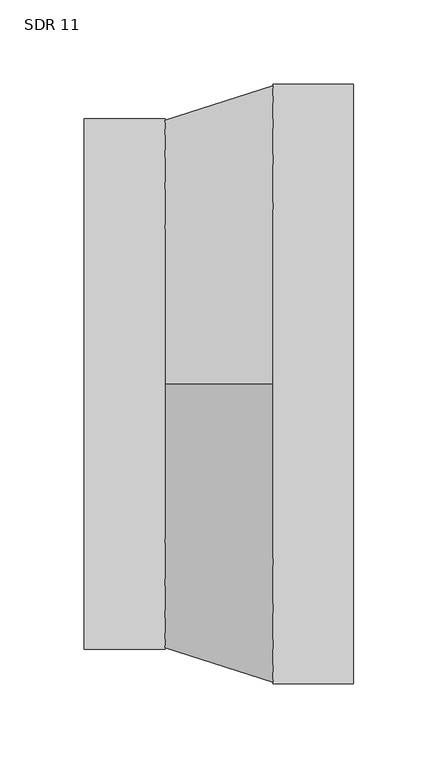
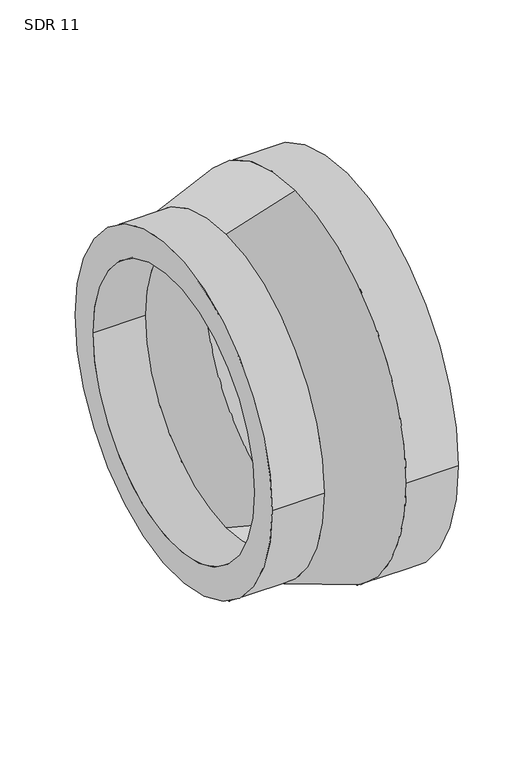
"""IFC4 building model written with IfcOpenShell, lengths in millimetres: pipe fitting geometry, Aquatherm - Reducing Coupling Combined - METRIC : SDR 11."""

from ifc_helpers import new_model, si_unit, frame, origin, place, context, project, spatial, polyline, circle_curve, source, transform, mapped, element, save
from ifc_brep_helpers import plane_surface, cylinder_surface, revolved_surface, advanced_brep


def sdr_11_f05b06da(model_context):
    return source(origin(), model_context, "Body", "AdvancedBrep", [
        advanced_brep(
        [(-80.01, -157.48, 0.0), (-80.01, 157.48, 0.0), (-80.01, -128.8472727, 0.0), (-80.01, 128.8472727, 0.0), (-32.004, 128.8472727, 0.0), (-32.004, 0.0, 128.8472727), (-32.004, -128.8472727, 0.0), (-32.004, 0.0, -128.8472727), (-32.004, 157.48, 0.0), (-32.004, 0.0, -157.48), (-32.004, -157.48, 0.0), (-32.004, 0.0, 157.48), (80.01, -177.8, 0.0), (80.01, 177.8, 0.0), (80.01, -145.4727273, 0.0), (80.01, 145.4727273, 0.0), (32.004, -177.8, 0.0), (32.004, 0.0, -177.8), (32.004, 177.8, 0.0), (32.004, 0.0, 177.8), (32.004, -145.4727273, 0.0), (32.004, 0.0, 145.4727273), (32.004, 145.4727273, 0.0), (32.004, 0.0, -145.4727273)],
        [
            (0, 1, circle_curve(frame((-80.01, 0.0, 0.0), z_axis=(-1.0, 0.0, 0.0), x_axis=(0.0, 1.0, 0.0)), 157.48)),
            (1, 0, circle_curve(frame((-80.01, 0.0, 0.0), z_axis=(-1.0, 0.0, 0.0), x_axis=(0.0, 1.0, 0.0)), 157.48)),
            (2, 3, circle_curve(frame((-80.01, 0.0, 0.0), z_axis=(1.0, 0.0, 0.0), x_axis=(0.0, 1.0, 0.0)), 128.8472727)),
            (3, 2, circle_curve(frame((-80.01, 0.0, 0.0), z_axis=(1.0, 0.0, 0.0), x_axis=(0.0, 1.0, 0.0)), 128.8472727)),
            (3, 4),
            (4, 5, circle_curve(frame((-32.004, 0.0, 0.0), z_axis=(1.0, 0.0, 0.0), x_axis=(0.0, 1.0, 0.0)), 128.8472727)),
            (5, 6, circle_curve(frame((-32.004, 0.0, 0.0), z_axis=(1.0, 0.0, 0.0), x_axis=(0.0, 1.0, 0.0)), 128.8472727)),
            (6, 2),
            (6, 7, circle_curve(frame((-32.004, 0.0, 0.0), z_axis=(1.0, 0.0, 0.0), x_axis=(0.0, 1.0, 0.0)), 128.8472727)),
            (7, 4, circle_curve(frame((-32.004, 0.0, 0.0), z_axis=(1.0, 0.0, 0.0), x_axis=(0.0, 1.0, 0.0)), 128.8472727)),
            (1, 8),
            (8, 9, circle_curve(frame((-32.004, 0.0, 0.0), z_axis=(-1.0, 0.0, 0.0), x_axis=(0.0, 1.0, 0.0)), 157.48)),
            (9, 10, circle_curve(frame((-32.004, 0.0, 0.0), z_axis=(-1.0, 0.0, 0.0), x_axis=(0.0, 1.0, 0.0)), 157.48)),
            (10, 0),
            (10, 11, circle_curve(frame((-32.004, 0.0, 0.0), z_axis=(-1.0, 0.0, 0.0), x_axis=(0.0, 1.0, 0.0)), 157.48)),
            (11, 8, circle_curve(frame((-32.004, 0.0, 0.0), z_axis=(-1.0, 0.0, 0.0), x_axis=(0.0, 1.0, 0.0)), 157.48)),
            (12, 13, circle_curve(frame((80.01, 0.0, 0.0), z_axis=(1.0, 0.0, 0.0), x_axis=(0.0, 1.0, 0.0)), 177.8)),
            (13, 12, circle_curve(frame((80.01, 0.0, 0.0), z_axis=(1.0, 0.0, 0.0), x_axis=(0.0, 1.0, 0.0)), 177.8)),
            (14, 15, circle_curve(frame((80.01, 0.0, 0.0), z_axis=(-1.0, 0.0, 0.0), x_axis=(0.0, 1.0, 0.0)), 145.4727273)),
            (15, 14, circle_curve(frame((80.01, 0.0, 0.0), z_axis=(-1.0, 0.0, 0.0), x_axis=(0.0, 1.0, 0.0)), 145.4727273)),
            (12, 16),
            (16, 17, circle_curve(frame((32.004, 0.0, 0.0), z_axis=(1.0, 0.0, 0.0), x_axis=(0.0, 1.0, 0.0)), 177.8)),
            (17, 18, circle_curve(frame((32.004, 0.0, 0.0), z_axis=(1.0, 0.0, 0.0), x_axis=(0.0, 1.0, 0.0)), 177.8)),
            (18, 13),
            (18, 19, circle_curve(frame((32.004, 0.0, 0.0), z_axis=(1.0, 0.0, 0.0), x_axis=(0.0, 1.0, 0.0)), 177.8)),
            (19, 16, circle_curve(frame((32.004, 0.0, 0.0), z_axis=(1.0, 0.0, 0.0), x_axis=(0.0, 1.0, 0.0)), 177.8)),
            (14, 20),
            (20, 21, circle_curve(frame((32.004, 0.0, 0.0), z_axis=(-1.0, 0.0, 0.0), x_axis=(0.0, 1.0, 0.0)), 145.4727273)),
            (21, 22, circle_curve(frame((32.004, 0.0, 0.0), z_axis=(-1.0, 0.0, 0.0), x_axis=(0.0, 1.0, 0.0)), 145.4727273)),
            (22, 15),
            (22, 23, circle_curve(frame((32.004, 0.0, 0.0), z_axis=(-1.0, 0.0, 0.0), x_axis=(0.0, 1.0, 0.0)), 145.4727273)),
            (23, 20, circle_curve(frame((32.004, 0.0, 0.0), z_axis=(-1.0, 0.0, 0.0), x_axis=(0.0, 1.0, 0.0)), 145.4727273)),
            (11, 19),
            (17, 9),
            (21, 5),
            (7, 23),
        ],
        [
            plane_surface(frame((-80.01, 128.8472727, 0.0), z_axis=(-1.0, 0.0, 0.0), x_axis=(0.0, 0.0, 1.0))),
            revolved_surface(polyline([(-80.01, 128.8472727, 0.0), (-32.004, 128.8472727, 0.0)]), (-80.01, 0.0, 0.0), (-1.0, 0.0, 0.0)),
            cylinder_surface(frame((0.0, 0.0, 0.0), z_axis=(1.0, 0.0, 0.0), x_axis=(0.0, 1.0, 0.0)), 157.48),
            plane_surface(frame((80.01, 177.8, 0.0), z_axis=(1.0, 0.0, 0.0), x_axis=(0.0, 0.0, 1.0))),
            cylinder_surface(frame((32.004, 0.0, 0.0), z_axis=(1.0, 0.0, 0.0), x_axis=(0.0, 1.0, 0.0)), 177.8),
            revolved_surface(polyline([(32.004, 145.4727273, 0.0), (80.01, 145.4727273, 0.0)]), (0.0, 0.0, 0.0), (-1.0, 0.0, 0.0)),
            revolved_surface(polyline([(32.004, 0.0, 177.8), (-32.004, 0.0, 157.48)]), (-655.2695384, 0.0, 0.0), (-1.0, 0.0, 0.0)),
            revolved_surface(polyline([(-32.004, 0.0, 128.8472727), (32.004, 0.0, 145.4727273)]), (-655.2695384, 0.0, 0.0), (-1.0, 0.0, 0.0)),
        ],
        [
            (0, [[1, 2], [3, 4]]),
            (1, [[-4, 5, 6, 7, 8]]),
            (1, [[-3, -8, 9, 10, -5]]),
            (2, [[-2, 11, 12, 13, 14]]),
            (2, [[-1, -14, 15, 16, -11]]),
            (3, [[17, 18], [19, 20]]),
            (4, [[-17, 21, 22, 23, 24]]),
            (4, [[-18, -24, 25, 26, -21]]),
            (5, [[-19, 27, 28, 29, 30]]),
            (5, [[-20, -30, 31, 32, -27]]),
            (6, [[33, -25, -23, 34, -12, -16]]),
            (6, [[-33, -15, -13, -34, -22, -26]]),
            (7, [[35, -6, -10, 36, -31, -29]]),
            (7, [[-35, -28, -32, -36, -9, -7]]),
        ],
    ),
    ])


if __name__ == "__main__":
    model = new_model("IFC4")
    model_context = context("Model", 3, world=origin())
    ifc_project = project(units=[si_unit("LENGTHUNIT", "METRE", prefix="MILLI")], contexts=[model_context])
    site = spatial("IfcSite", under=ifc_project)
    building = spatial("IfcBuilding", under=site)
    placement = place(None, origin())
    sdr_11_shape = sdr_11_f05b06da(model_context)
    element("IfcPipeFitting", 1, ObjectType="Aquatherm - Reducing Coupling Combined - METRIC : SDR 11", at=placement, inside=building, context=model_context, shape_type="MappedRepresentation", body=[
        mapped(sdr_11_shape, transform((0.0, 0.0, 0.0), x_axis=(1.0, 0.0, 0.0), y_axis=(0.0, 1.0, 0.0), z_axis=(0.0, 0.0, 1.0))),
    ])
    save(model, "model.ifc")
